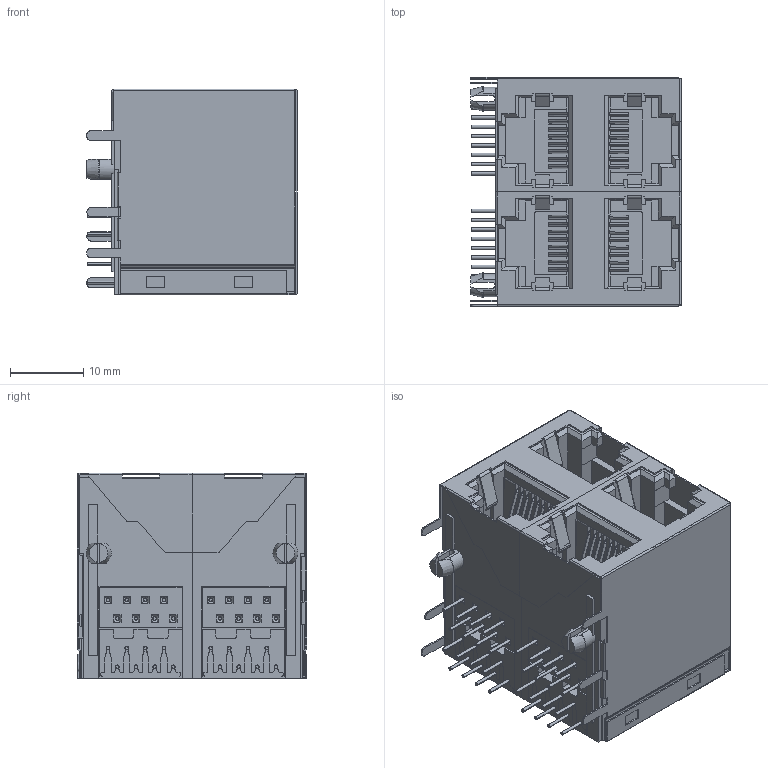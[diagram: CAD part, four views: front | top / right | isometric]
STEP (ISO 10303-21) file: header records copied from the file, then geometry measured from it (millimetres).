
FILE_DESCRIPTION((''),'2;1');
FILE_NAME('5921GW-022_ASM_1_ASM_1_ASM','2020-07-17T15:31:41',('Administrator'),(''),'CREO PARAMETRIC BY PTC INC, 2018400','CREO PARAMETRIC BY PTC INC, 2018400','');
FILE_SCHEMA(('CONFIG_CONTROL_DESIGN'));
Length unit declared in the file: millimetre
Products named in the file (22): SU_1_1_1; ZHEN-Y-1_1_1_1; XIAN-Y_1_1_1; CX_ASM_1_ASM_1_ASM_1_ASM; CAXING2_1_1_1; H_1_1_1; CX2_ASM_1_ASM_1_ASM_1_ASM; P_1_1_1; T_1_1_1; CAXING_1_1_1_1; 5921GW_ASM_1_ASM_1_ASM; T_1_1_1_1; SU_1_1_1_1; ZHEN-Y-1_1_1_1_1; XIAN-Y_1_1_1_1; CX_ASM_1_ASM_1_ASM_1_ASM_1_ASM; CAXING2_1_1_1_1; H_1_1_1_1; CX2_ASM_1_ASM_1_ASM_1_ASM_1_ASM; P_1_1_1_1; 5921GW-022-2_ASM_1_ASM_1_ASM; 5921GW-022_ASM_1_ASM_1_ASM
Assembly tree (82 placements, depth 4):
  5921GW-022_ASM_1_ASM_1_ASM
    5921GW_ASM_1_ASM_1_ASM
      SU_1_1_1
      CX_ASM_1_ASM_1_ASM_1_ASM
        ZHEN-Y-1_1_1_1  x8
        XIAN-Y_1_1_1  x8
      CX2_ASM_1_ASM_1_ASM_1_ASM
        CAXING2_1_1_1
        XIAN-Y_1_1_1  x8
        ZHEN-Y-1_1_1_1  x8
        H_1_1_1
      P_1_1_1
      T_1_1_1
      CAXING_1_1_1_1
    5921GW-022-2_ASM_1_ASM_1_ASM
      T_1_1_1_1
      SU_1_1_1_1
      CX_ASM_1_ASM_1_ASM_1_ASM_1_ASM
        CAXING_1_1_1_1
        ZHEN-Y-1_1_1_1_1  x8
        XIAN-Y_1_1_1_1  x8
      CX2_ASM_1_ASM_1_ASM_1_ASM_1_ASM
        CAXING2_1_1_1_1
        XIAN-Y_1_1_1_1  x8
        ZHEN-Y-1_1_1_1_1  x8
        H_1_1_1_1
      P_1_1_1_1
Bounding box: 28.6 x 31.17 x 28 mm (x, y, z)
Volume: 11407.6 mm3; surface area: 26555.8 mm2
Topology: 76 solids, 76 shells, 2414 faces, 6708 edges, 4402 vertices
Faces by surface type: plane 1640, cylinder 594, torus 128, cone 52
Entity records: 58888 total; most frequent: CARTESIAN_POINT 11285, ORIENTED_EDGE 10220, DIRECTION 9546, EDGE_CURVE 5110, VECTOR 4094, LINE 4094, VERTEX_POINT 3428, AXIS2_PLACEMENT_3D 2726
